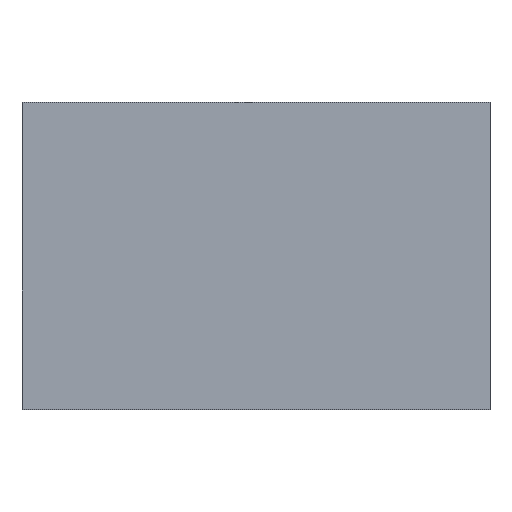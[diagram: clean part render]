
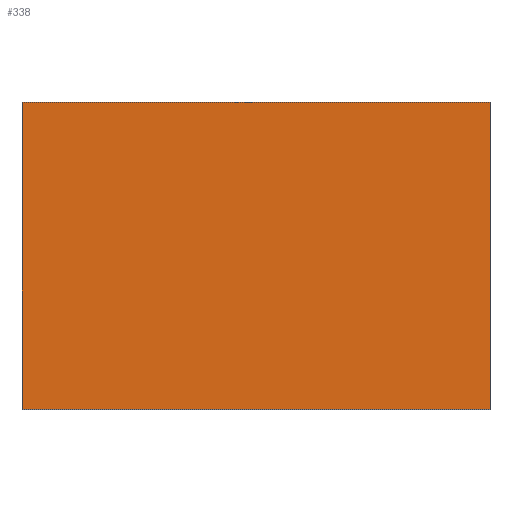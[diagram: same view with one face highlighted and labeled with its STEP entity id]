
A CAD part, top view. The second image highlights one B-rep face of the part: STEP entity #338.
In plain terms, the highlighted planar face has unit normal (0, 0, 1).
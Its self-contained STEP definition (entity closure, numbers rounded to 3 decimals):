
#24 = VERTEX_POINT('',#25);
#25 = CARTESIAN_POINT('',(0.,0.,3.));
#32 = PLANE('',#33);
#33 = AXIS2_PLACEMENT_3D('',#34,#35,#36);
#34 = CARTESIAN_POINT('',(0.,0.,0.));
#35 = DIRECTION('',(1.,0.,-0.));
#36 = DIRECTION('',(0.,0.,1.));
#44 = PLANE('',#45);
#45 = AXIS2_PLACEMENT_3D('',#46,#47,#48);
#46 = CARTESIAN_POINT('',(0.,0.,0.));
#47 = DIRECTION('',(-0.,1.,0.));
#48 = DIRECTION('',(0.,0.,1.));
#85 = VERTEX_POINT('',#86);
#86 = CARTESIAN_POINT('',(0.,8.,3.));
#100 = PLANE('',#101);
#101 = AXIS2_PLACEMENT_3D('',#102,#103,#104);
#102 = CARTESIAN_POINT('',(0.,8.,0.));
#103 = DIRECTION('',(-0.,1.,0.));
#104 = DIRECTION('',(0.,0.,1.));
#112 = EDGE_CURVE('',#24,#85,#113,.T.);
#113 = SURFACE_CURVE('',#114,(#118,#125),.PCURVE_S1.);
#114 = LINE('',#115,#116);
#115 = CARTESIAN_POINT('',(0.,0.,3.));
#116 = VECTOR('',#117,1.);
#117 = DIRECTION('',(-0.,1.,0.));
#118 = PCURVE('',#32,#119);
#119 = DEFINITIONAL_REPRESENTATION('',(#120),#124);
#120 = LINE('',#121,#122);
#121 = CARTESIAN_POINT('',(3.,0.));
#122 = VECTOR('',#123,1.);
#123 = DIRECTION('',(0.,-1.));
#124 = ( GEOMETRIC_REPRESENTATION_CONTEXT(2) 
PARAMETRIC_REPRESENTATION_CONTEXT() REPRESENTATION_CONTEXT('2D SPACE',''
  ) );
#125 = PCURVE('',#126,#131);
#126 = PLANE('',#127);
#127 = AXIS2_PLACEMENT_3D('',#128,#129,#130);
#128 = CARTESIAN_POINT('',(0.,0.,3.));
#129 = DIRECTION('',(0.,0.,1.));
#130 = DIRECTION('',(1.,0.,-0.));
#131 = DEFINITIONAL_REPRESENTATION('',(#132),#136);
#132 = LINE('',#133,#134);
#133 = CARTESIAN_POINT('',(0.,0.));
#134 = VECTOR('',#135,1.);
#135 = DIRECTION('',(0.,1.));
#136 = ( GEOMETRIC_REPRESENTATION_CONTEXT(2) 
PARAMETRIC_REPRESENTATION_CONTEXT() REPRESENTATION_CONTEXT('2D SPACE',''
  ) );
#144 = VERTEX_POINT('',#145);
#145 = CARTESIAN_POINT('',(12.2,0.,3.));
#152 = PLANE('',#153);
#153 = AXIS2_PLACEMENT_3D('',#154,#155,#156);
#154 = CARTESIAN_POINT('',(12.2,0.,0.));
#155 = DIRECTION('',(1.,0.,-0.));
#156 = DIRECTION('',(0.,0.,1.));
#195 = VERTEX_POINT('',#196);
#196 = CARTESIAN_POINT('',(12.2,8.,3.));
#217 = EDGE_CURVE('',#144,#195,#218,.T.);
#218 = SURFACE_CURVE('',#219,(#223,#230),.PCURVE_S1.);
#219 = LINE('',#220,#221);
#220 = CARTESIAN_POINT('',(12.2,0.,3.));
#221 = VECTOR('',#222,1.);
#222 = DIRECTION('',(-0.,1.,0.));
#223 = PCURVE('',#152,#224);
#224 = DEFINITIONAL_REPRESENTATION('',(#225),#229);
#225 = LINE('',#226,#227);
#226 = CARTESIAN_POINT('',(3.,0.));
#227 = VECTOR('',#228,1.);
#228 = DIRECTION('',(0.,-1.));
#229 = ( GEOMETRIC_REPRESENTATION_CONTEXT(2) 
PARAMETRIC_REPRESENTATION_CONTEXT() REPRESENTATION_CONTEXT('2D SPACE',''
  ) );
#230 = PCURVE('',#126,#231);
#231 = DEFINITIONAL_REPRESENTATION('',(#232),#236);
#232 = LINE('',#233,#234);
#233 = CARTESIAN_POINT('',(12.2,0.));
#234 = VECTOR('',#235,1.);
#235 = DIRECTION('',(0.,1.));
#236 = ( GEOMETRIC_REPRESENTATION_CONTEXT(2) 
PARAMETRIC_REPRESENTATION_CONTEXT() REPRESENTATION_CONTEXT('2D SPACE',''
  ) );
#263 = EDGE_CURVE('',#24,#144,#264,.T.);
#264 = SURFACE_CURVE('',#265,(#269,#276),.PCURVE_S1.);
#265 = LINE('',#266,#267);
#266 = CARTESIAN_POINT('',(0.,0.,3.));
#267 = VECTOR('',#268,1.);
#268 = DIRECTION('',(1.,0.,-0.));
#269 = PCURVE('',#44,#270);
#270 = DEFINITIONAL_REPRESENTATION('',(#271),#275);
#271 = LINE('',#272,#273);
#272 = CARTESIAN_POINT('',(3.,0.));
#273 = VECTOR('',#274,1.);
#274 = DIRECTION('',(0.,1.));
#275 = ( GEOMETRIC_REPRESENTATION_CONTEXT(2) 
PARAMETRIC_REPRESENTATION_CONTEXT() REPRESENTATION_CONTEXT('2D SPACE',''
  ) );
#276 = PCURVE('',#126,#277);
#277 = DEFINITIONAL_REPRESENTATION('',(#278),#282);
#278 = LINE('',#279,#280);
#279 = CARTESIAN_POINT('',(0.,0.));
#280 = VECTOR('',#281,1.);
#281 = DIRECTION('',(1.,0.));
#282 = ( GEOMETRIC_REPRESENTATION_CONTEXT(2) 
PARAMETRIC_REPRESENTATION_CONTEXT() REPRESENTATION_CONTEXT('2D SPACE',''
  ) );
#310 = EDGE_CURVE('',#85,#195,#311,.T.);
#311 = SURFACE_CURVE('',#312,(#316,#323),.PCURVE_S1.);
#312 = LINE('',#313,#314);
#313 = CARTESIAN_POINT('',(0.,8.,3.));
#314 = VECTOR('',#315,1.);
#315 = DIRECTION('',(1.,0.,-0.));
#316 = PCURVE('',#100,#317);
#317 = DEFINITIONAL_REPRESENTATION('',(#318),#322);
#318 = LINE('',#319,#320);
#319 = CARTESIAN_POINT('',(3.,0.));
#320 = VECTOR('',#321,1.);
#321 = DIRECTION('',(0.,1.));
#322 = ( GEOMETRIC_REPRESENTATION_CONTEXT(2) 
PARAMETRIC_REPRESENTATION_CONTEXT() REPRESENTATION_CONTEXT('2D SPACE',''
  ) );
#323 = PCURVE('',#126,#324);
#324 = DEFINITIONAL_REPRESENTATION('',(#325),#329);
#325 = LINE('',#326,#327);
#326 = CARTESIAN_POINT('',(0.,8.));
#327 = VECTOR('',#328,1.);
#328 = DIRECTION('',(1.,0.));
#329 = ( GEOMETRIC_REPRESENTATION_CONTEXT(2) 
PARAMETRIC_REPRESENTATION_CONTEXT() REPRESENTATION_CONTEXT('2D SPACE',''
  ) );
#338 = ADVANCED_FACE('',(#339),#126,.T.);
#339 = FACE_BOUND('',#340,.T.);
#340 = EDGE_LOOP('',(#341,#342,#343,#344));
#341 = ORIENTED_EDGE('',*,*,#112,.F.);
#342 = ORIENTED_EDGE('',*,*,#263,.T.);
#343 = ORIENTED_EDGE('',*,*,#217,.T.);
#344 = ORIENTED_EDGE('',*,*,#310,.F.);
